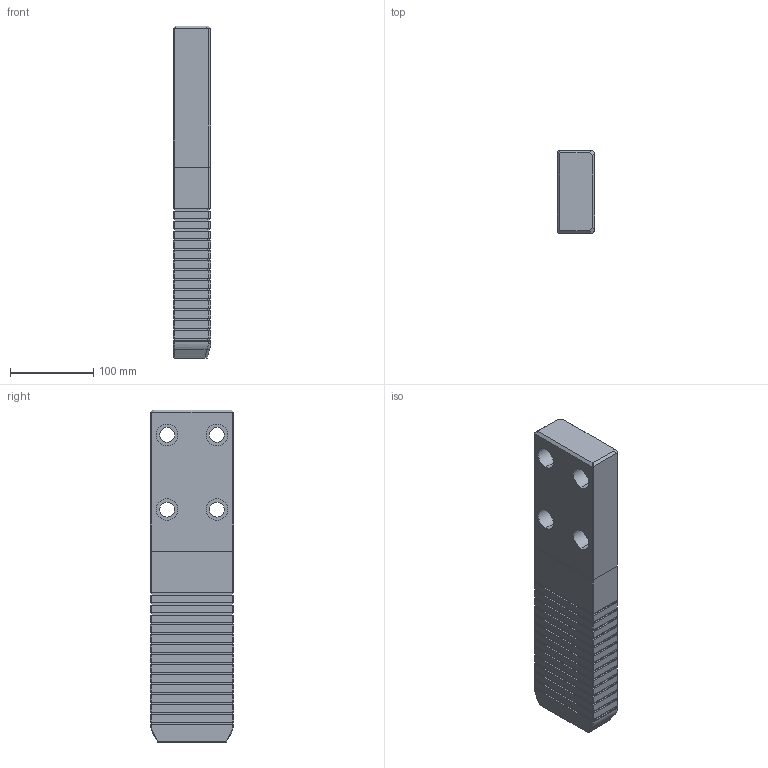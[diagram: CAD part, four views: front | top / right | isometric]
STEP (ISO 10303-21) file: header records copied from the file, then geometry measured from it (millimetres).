
FILE_DESCRIPTION((''),'2;1');
FILE_NAME('','2010-08-30T13:13:33+09:00',('misumi'),(''),'M/STEP i/f 1R2-14','CADmeister v5.1','');
FILE_SCHEMA(('AUTOMOTIVE_DESIGN'));
Length unit declared in the file: millimetre
Products named in the file (1): GWBZ100-400
Bounding box: 45 x 100 x 400 mm (x, y, z)
Volume: 1699124 mm3; surface area: 143750.5 mm2
Topology: 1 solids, 1 shells, 320 faces, 833 edges, 548 vertices
Faces by surface type: plane 291, cylinder 21, bspline 6, cone 2
Entity records: 9991 total; most frequent: CARTESIAN_POINT 2044, ORIENTED_EDGE 1666, DIRECTION 1485, EDGE_CURVE 833, LINE 775, VECTOR 775, VERTEX_POINT 548, EDGE_LOOP 361
